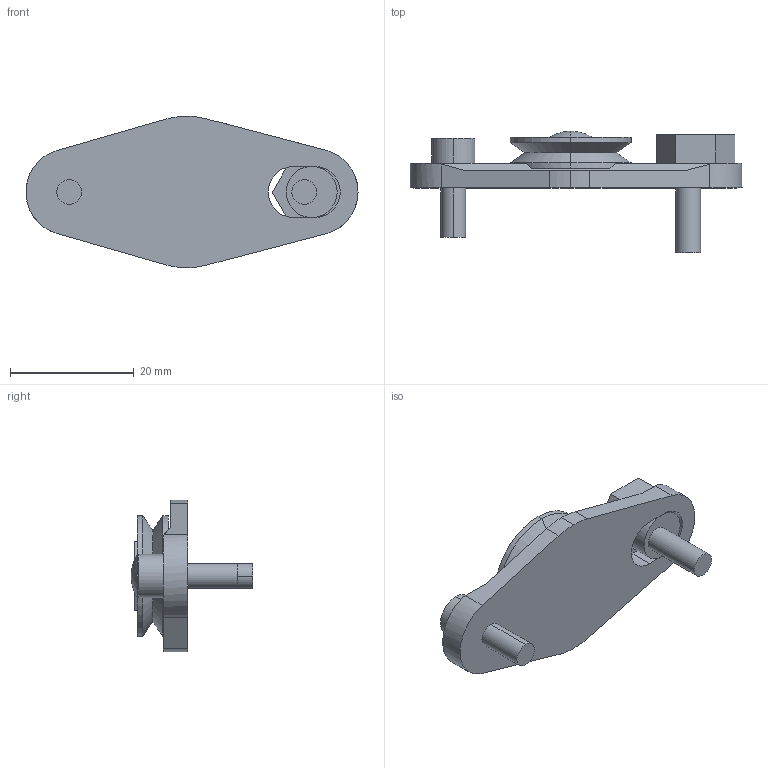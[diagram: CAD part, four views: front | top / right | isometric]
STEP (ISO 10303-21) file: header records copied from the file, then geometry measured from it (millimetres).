
FILE_DESCRIPTION(('STEP AP203'),'1');
FILE_NAME('gbhj_195_e_ns.stp','2021-09-29T05:43:35',('TraceParts'),('TraceParts S.A.'),'Spatial InterOp 3D',' ',' ');
FILE_SCHEMA(('CONFIG_CONTROL_DESIGN'));
Length unit declared in the file: millimetre
Products named in the file (1): 1
Bounding box: 53.69 x 19.7 x 24.5 mm (x, y, z)
Volume: 5431.2 mm3; surface area: 3610.9 mm2
Topology: 2 solids, 2 shells, 67 faces, 160 edges, 105 vertices
Faces by surface type: plane 39, cylinder 22, cone 4, sphere 2
Entity records: 1998 total; most frequent: CARTESIAN_POINT 346, DIRECTION 346, ORIENTED_EDGE 320, EDGE_CURVE 160, AXIS2_PLACEMENT_3D 121, VERTEX_POINT 105, LINE 104, VECTOR 104
